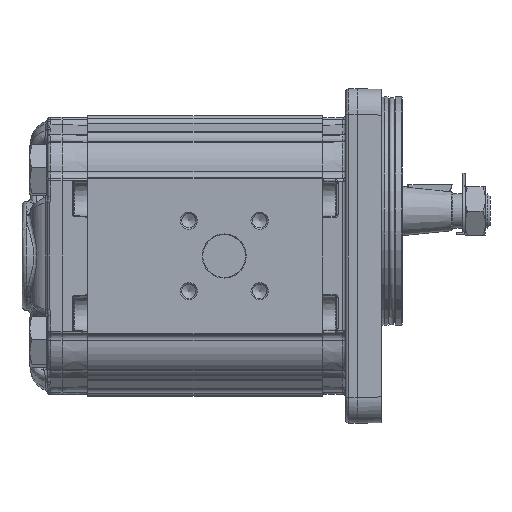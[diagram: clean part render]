
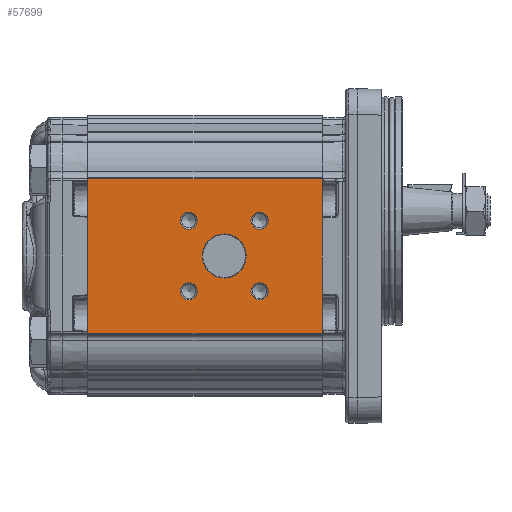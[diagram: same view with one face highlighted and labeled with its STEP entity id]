
A CAD part, left-side view. The second image highlights one B-rep face of the part: STEP entity #57699.
In plain terms, the highlighted planar face has unit normal (-1, 0, 0) as drawn and (1, 0, 0) by its records, which use the part's own axes.
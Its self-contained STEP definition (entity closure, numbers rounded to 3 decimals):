
#3912=PLANE('',#61370);
#5404=CIRCLE('',#61371,7.7);
#5405=CIRCLE('',#61372,3.);
#5406=CIRCLE('',#61373,3.);
#5407=CIRCLE('',#61374,3.);
#5408=CIRCLE('',#61375,3.);
#11219=ORIENTED_EDGE('',*,*,#20752,.T.);
#11220=ORIENTED_EDGE('',*,*,#20753,.T.);
#11221=ORIENTED_EDGE('',*,*,#20754,.T.);
#11222=ORIENTED_EDGE('',*,*,#20755,.T.);
#11223=ORIENTED_EDGE('',*,*,#20756,.T.);
#11224=ORIENTED_EDGE('',*,*,#20731,.F.);
#11225=ORIENTED_EDGE('',*,*,#20757,.F.);
#11226=ORIENTED_EDGE('',*,*,#20661,.T.);
#11227=ORIENTED_EDGE('',*,*,#20758,.T.);
#20661=EDGE_CURVE('',#25758,#25757,#28573,.T.);
#20731=EDGE_CURVE('',#25825,#25826,#28585,.T.);
#20752=EDGE_CURVE('',#25830,#25830,#5404,.F.);
#20753=EDGE_CURVE('',#25831,#25831,#5405,.F.);
#20754=EDGE_CURVE('',#25832,#25832,#5406,.F.);
#20755=EDGE_CURVE('',#25833,#25833,#5407,.F.);
#20756=EDGE_CURVE('',#25834,#25834,#5408,.F.);
#20757=EDGE_CURVE('',#25758,#25825,#28602,.T.);
#20758=EDGE_CURVE('',#25757,#25826,#28603,.T.);
#25757=VERTEX_POINT('',#101337);
#25758=VERTEX_POINT('',#101339);
#25825=VERTEX_POINT('',#101476);
#25826=VERTEX_POINT('',#101478);
#25830=VERTEX_POINT('',#101512);
#25831=VERTEX_POINT('',#101514);
#25832=VERTEX_POINT('',#101516);
#25833=VERTEX_POINT('',#101518);
#25834=VERTEX_POINT('',#101520);
#28573=LINE('',#101338,#30439);
#28585=LINE('',#101477,#30451);
#28602=LINE('',#101521,#30468);
#28603=LINE('',#101522,#30469);
#30439=VECTOR('',#68014,1000.);
#30451=VECTOR('',#68144,1000.);
#30468=VECTOR('',#68197,1000.);
#30469=VECTOR('',#68198,1000.);
#32988=EDGE_LOOP('',(#11219));
#32989=EDGE_LOOP('',(#11220));
#32990=EDGE_LOOP('',(#11221));
#32991=EDGE_LOOP('',(#11222));
#32992=EDGE_LOOP('',(#11223));
#32993=EDGE_LOOP('',(#11224,#11225,#11226,#11227));
#35945=FACE_BOUND('',#32988,.T.);
#35946=FACE_BOUND('',#32989,.T.);
#35947=FACE_BOUND('',#32990,.T.);
#35948=FACE_BOUND('',#32991,.T.);
#35949=FACE_BOUND('',#32992,.T.);
#35950=FACE_BOUND('',#32993,.T.);
#57699=ADVANCED_FACE('',(#35945,#35946,#35947,#35948,#35949,#35950),#3912,
 .T.);
#61370=AXIS2_PLACEMENT_3D('',#101510,#68185,#68186);
#61371=AXIS2_PLACEMENT_3D('',#101511,#68187,#68188);
#61372=AXIS2_PLACEMENT_3D('',#101513,#68189,#68190);
#61373=AXIS2_PLACEMENT_3D('',#101515,#68191,#68192);
#61374=AXIS2_PLACEMENT_3D('',#101517,#68193,#68194);
#61375=AXIS2_PLACEMENT_3D('',#101519,#68195,#68196);
#68014=DIRECTION('',(0.,0.,1.));
#68144=DIRECTION('',(0.,0.,1.));
#68185=DIRECTION('',(1.,0.,0.));
#68186=DIRECTION('',(0.,0.,-1.));
#68187=DIRECTION('',(1.,0.,0.));
#68188=DIRECTION('',(0.,0.,-1.));
#68189=DIRECTION('',(1.,0.,0.));
#68190=DIRECTION('',(0.,0.,-1.));
#68191=DIRECTION('',(1.,0.,0.));
#68192=DIRECTION('',(0.,0.,-1.));
#68193=DIRECTION('',(1.,0.,0.));
#68194=DIRECTION('',(0.,0.,-1.));
#68195=DIRECTION('',(1.,0.,0.));
#68196=DIRECTION('',(0.,0.,-1.));
#68197=DIRECTION('',(0.,-1.,0.));
#68198=DIRECTION('',(0.,-1.,0.));
#101337=CARTESIAN_POINT('',(43.,82.,27.048));
#101338=CARTESIAN_POINT('',(43.,82.,27.048));
#101339=CARTESIAN_POINT('',(43.,82.,-27.048));
#101476=CARTESIAN_POINT('',(43.,0.,-27.048));
#101477=CARTESIAN_POINT('',(43.,0.,27.048));
#101478=CARTESIAN_POINT('',(43.,0.,27.048));
#101510=CARTESIAN_POINT('',(43.,82.,27.048));
#101511=CARTESIAN_POINT('',(43.,34.3,0.));
#101512=CARTESIAN_POINT('',(43.,34.3,-7.7));
#101513=CARTESIAN_POINT('',(43.,46.674,-12.374));
#101514=CARTESIAN_POINT('',(43.,46.674,-15.374));
#101515=CARTESIAN_POINT('',(43.,46.674,12.374));
#101516=CARTESIAN_POINT('',(43.,46.674,9.374));
#101517=CARTESIAN_POINT('',(43.,21.926,12.374));
#101518=CARTESIAN_POINT('',(43.,21.926,9.374));
#101519=CARTESIAN_POINT('',(43.,21.926,-12.374));
#101520=CARTESIAN_POINT('',(43.,21.926,-15.374));
#101521=CARTESIAN_POINT('',(43.,82.,-27.048));
#101522=CARTESIAN_POINT('',(43.,82.,27.048));
